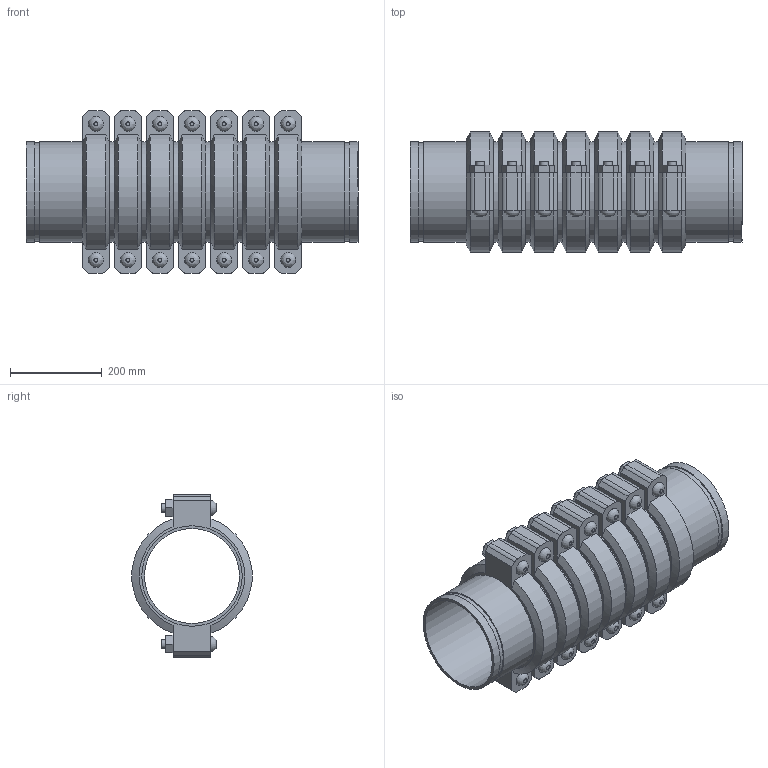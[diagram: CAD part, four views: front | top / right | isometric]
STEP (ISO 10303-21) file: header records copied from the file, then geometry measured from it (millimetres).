
FILE_DESCRIPTION(/* description */ ('VIC SS EXPANSION JOINT 7 COUPLINGS COMPRESSED STYLE 155P (OGS) (POTABLE WATER) ','CAx-IF Rec.Pracs.---Representation and Presentation of Product Manufacturing Information (PMI)---4.0---2014-10-13'),/* implementation_level */ '2;1');
FILE_NAME(/* name */ 'C:\Users\kkamble\AppData\Roaming\Autodesk\ApplicationPlugins\Victaulic.Temp\A968\Victaulic_SS_Expansion Joint_Compressed_7 Couplings_Style 155P (OGS)-Potable Water_7 Coup_Comp_8 (200).stp',/* time_stamp */ '2021-07-16T17:16:12+06:00',/* author */ ('kkamble'),/* organization */ ('Victaulic'),/* preprocessor_version */ 'ST-DEVELOPER v17.2',/* originating_system */ 'Autodesk Inventor 2019',/* authorisation */ '');
FILE_SCHEMA (('AP242_MANAGED_MODEL_BASED_3D_ENGINEERING_MIM_LF { 1 0 10303 442 1 1 4 }'));
Length unit declared in the file: inch
Products named in the file (4): 155P-08.0; Nipple-08.0; Nipple-08.0_1; 075-08.0
Assembly tree (15 placements, depth 2):
  155P-08.0
    Nipple-08.0  x2
    Nipple-08.0_1  x6
    075-08.0  x7
Bounding box: 723.9 x 261.72 x 354.84 mm (x, y, z)
Volume: 12317856.8 mm3; surface area: 2251972.5 mm2
Topology: 15 solids, 29 shells, 467 faces, 1129 edges, 794 vertices
Faces by surface type: plane 286, cylinder 139, cone 28, bspline 14
Full cylindrical faces by diameter (mm): 19.05 x28, 21.209 x14, 206.985 x8, 214.401 x16, 219.075 x31
Entity records: 2721 total; most frequent: CARTESIAN_POINT 485, DIRECTION 455, ORIENTED_EDGE 374, EDGE_CURVE 187, AXIS2_PLACEMENT_3D 182, VERTEX_POINT 134, EDGE_LOOP 101, LINE 91
